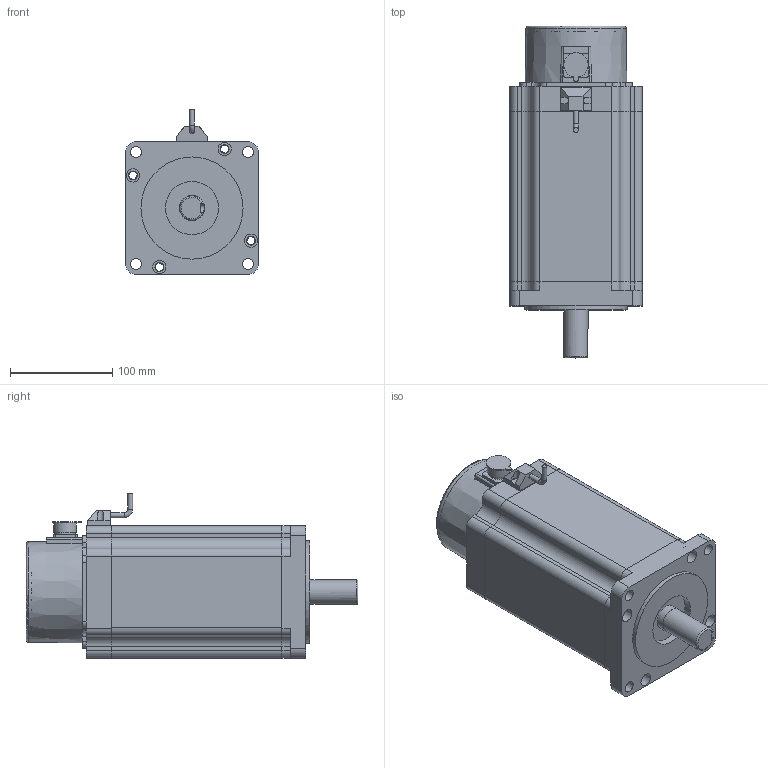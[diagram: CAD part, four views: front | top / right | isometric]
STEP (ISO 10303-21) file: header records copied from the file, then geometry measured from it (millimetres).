
FILE_DESCRIPTION(/* description */ (''),/* implementation_level */ '2;1');
FILE_NAME(/* name */ '130BYG350C.stp',/* time_stamp */ '2024-08-16T15:51:27+08:00',/* author */ (''),/* organization */ (''),/* preprocessor_version */ 'ST-DEVELOPER v18.1',/* originating_system */ 'SIEMENS PLM Software NX 2000',/* authorisation */ '');
FILE_SCHEMA (('AUTOMOTIVE_DESIGN { 1 0 10303 214 3 1 1 1 }'));
Length unit declared in the file: millimetre
Products named in the file (1): 925032A4A3696v2p
Bounding box: 130 x 325 x 161.44 mm (x, y, z)
Volume: 3265380.1 mm3; surface area: 310588.2 mm2
Topology: 9 solids, 9 shells, 414 faces, 1174 edges, 791 vertices
Faces by surface type: plane 301, cylinder 107, torus 4, cone 2
Full cylindrical faces by diameter (mm): 3 x4, 4.8 x2, 6.5 x4, 7 x1, 8 x4, 8.5 x12, 11 x4, 13 x4, 16.5 x1, 20.196 x2, 22.032 x1, 24 x1, 24.7 x1, 25 x1, 52 x1, 100 x1
Entity records: 13510 total; most frequent: CARTESIAN_POINT 2572, ORIENTED_EDGE 2176, DIRECTION 2125, EDGE_CURVE 1088, LINE 863, VECTOR 863, VERTEX_POINT 754, EDGE_LOOP 632
